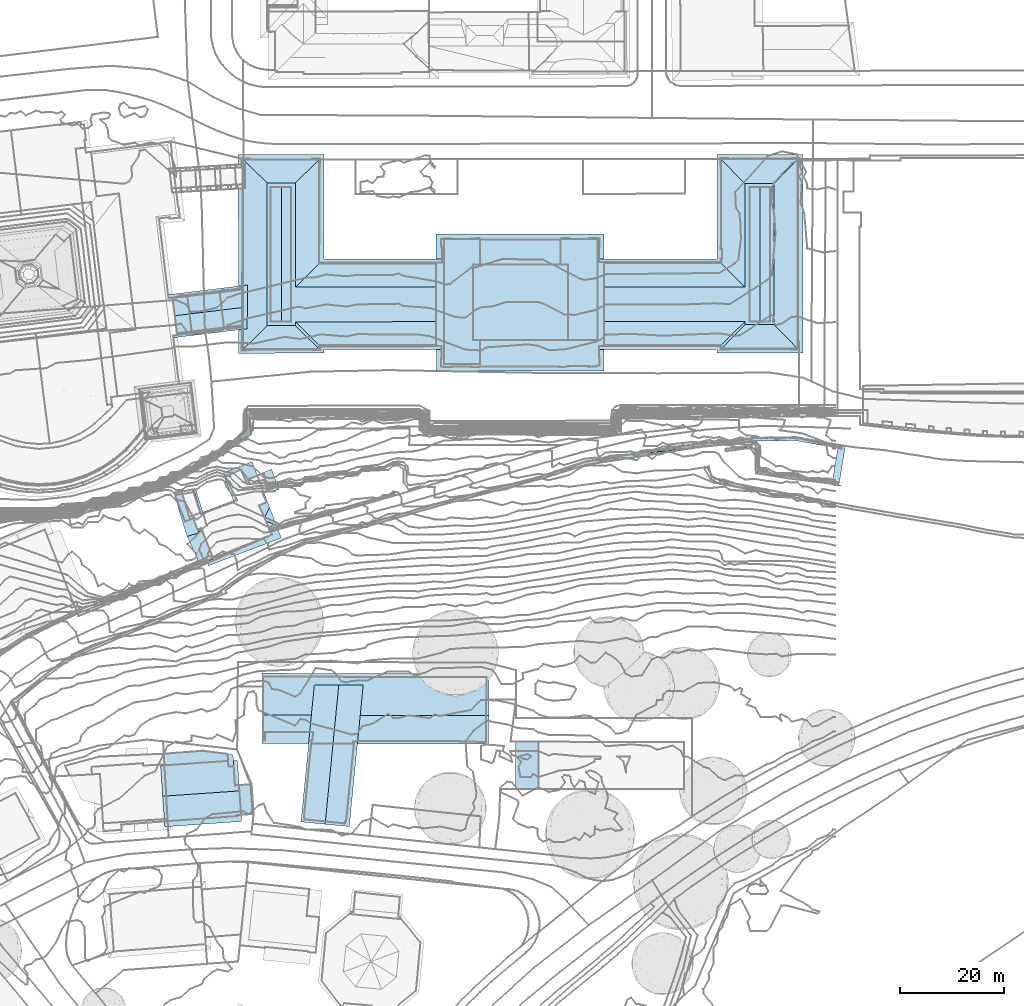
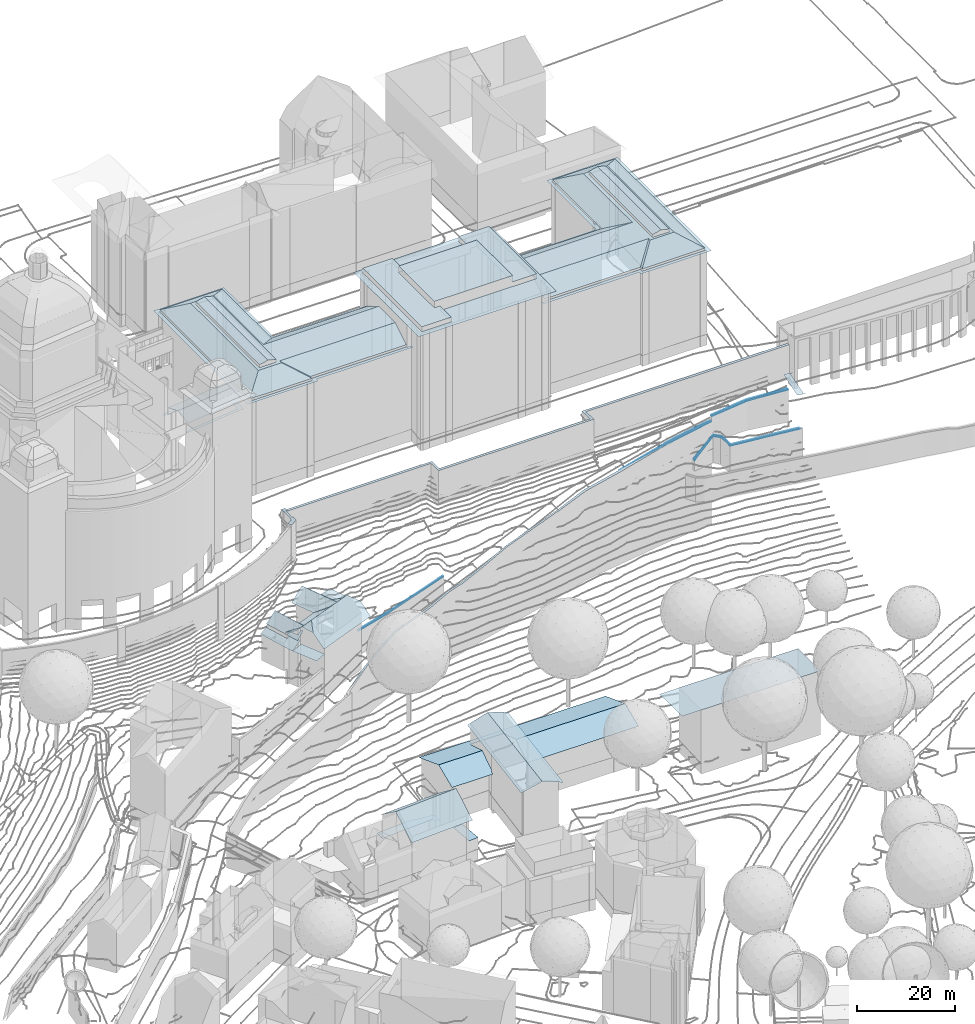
# Not in any storey, part 79 of 494: 28 roofs.
"""IFC2X3 model written with IfcOpenShell, lengths in metres."""

from ifc_helpers import new_model, si_unit, frame, origin_with_axes, place, context, subcontext, project, faceted_brep, element, save


model = new_model("IFC2X3")

# Units and contexts
model_context = context("Model", 3, precision=1e-05, world=origin_with_axes())
body_context = subcontext(model_context, "Body", "Model", "MODEL_VIEW")
ifc_project = project(units=[si_unit("AREAUNIT", "SQUARE_METRE"), si_unit("LENGTHUNIT", "METRE")], contexts=[model_context])

# Roofs
roof_1_placement = place(None, frame((211.8297320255, 101.9383160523, 526.7541), z_axis=(0.0, 0.0, 1.0), x_axis=(1.0, 0.0, 0.0)))
element("IfcRoof", 1, at=roof_1_placement, Name="Roof 1", ShapeType="NOTDEFINED", context=body_context, shape_type="Brep", body=[
    faceted_brep([(458.5340000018, 259.1182000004, 13.2578), (458.5340000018, 258.5155999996, 13.2578), (481.6610000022, 258.5654000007, 13.2577), (481.6600000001, 259.1680000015, 13.2578), (363.3159999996, 258.4228000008, 13.3187), (373.694000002, 258.4043000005, 13.3187), (373.694000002, 259.0078000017, 13.3187), (363.3269999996, 259.0254000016, 13.3187), (397.2360000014, 258.4268000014, 13.3188), (397.8360000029, 259.0302999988, 13.3188), (397.2530000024, 255.4492000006, 13.3188), (397.8530000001, 256.0516999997, 13.3188), (433.2310000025, 256.0078000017, 13.3188), (433.8430000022, 255.4032999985, 13.3188), (433.7950000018, 258.5439000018, 13.3188), (433.1830000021, 259.1475000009, 13.3188)], [[[0, 1, 2]], [[2, 3, 0]], [[4, 5, 6]], [[4, 6, 7]], [[6, 5, 8]], [[6, 8, 9]], [[8, 10, 11]], [[10, 12, 11]], [[12, 10, 13]], [[12, 13, 14]], [[14, 15, 12]], [[11, 9, 8]], [[15, 14, 0]], [[1, 0, 14]]]),
])
roof_2_placement = place(None, frame((211.8297320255, 101.9383160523, 526.7541), z_axis=(0.0, 0.0, 1.0), x_axis=(1.0, 0.0, 0.0)))
element("IfcRoof", 2, at=roof_2_placement, Name="Roof 2", ShapeType="NOTDEFINED", context=body_context, shape_type="Brep", body=[
    faceted_brep([(361.5580000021, 253.379900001, 13.5627), (363.2410000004, 254.4589999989, 13.5627), (362.3150000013, 254.9765000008, 13.5627), (363.0109999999, 255.754900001, 13.5627), (363.2630000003, 255.6416000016, 13.5627), (361.0960000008, 254.1953000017, 13.5627), (362.5670000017, 255.7236000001, 13.5627), (362.5810000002, 258.2802999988, 13.5627), (363.1009999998, 258.2637000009, 13.5627), (363.313000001, 258.2626999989, 13.5627), (363.3300000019, 259.2012000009, 13.5627), (362.3780000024, 258.3046999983, 13.5627), (362.3949999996, 259.2186999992, 13.5627)], [[[0, 1, 2]], [[3, 2, 4]], [[0, 2, 5]], [[6, 2, 3]], [[6, 3, 7]], [[2, 1, 4]], [[8, 9, 10]], [[8, 7, 3]], [[11, 7, 12]], [[10, 12, 7]], [[7, 8, 10]]]),
])
roof_3_placement = place(None, frame((211.8297320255, 101.9383160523, 526.7541), z_axis=(0.0, 0.0, 1.0), x_axis=(1.0, 0.0, 0.0)))
element("IfcRoof", 3, at=roof_3_placement, Name="Roof 50", ShapeType="NOTDEFINED", context=body_context, shape_type="Brep", body=[
    faceted_brep([(457.7770000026, 253.4296999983, 4.8446), (457.8430000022, 252.7675999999, 4.8446), (460.1730000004, 253.6680000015, 4.9256), (460.2239999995, 253.1543000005, 4.9256), (449.7650000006, 252.6308000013, 4.0297), (436.7320000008, 250.5683000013, 2.4808), (449.8500000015, 251.9706999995, 4.0297)], [[[0, 1, 2]], [[3, 2, 1]], [[4, 5, 6]], [[1, 0, 6]], [[4, 6, 0]]]),
])
roof_4_placement = place(None, frame((211.8297320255, 101.9383160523, 526.7541), z_axis=(0.0, 0.0, 1.0), x_axis=(1.0, 0.0, 0.0)))
element("IfcRoof", 4, at=roof_4_placement, Name="Roof 51", ShapeType="NOTDEFINED", context=body_context, shape_type="Brep", body=[
    faceted_brep([(477.4140000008, 251.6435000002, 7.7063), (477.5230000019, 252.2578000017, 7.7073), (468.6530000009, 253.8467000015, 7.0034), (468.6080000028, 253.2734000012, 7.0034), (460.2239999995, 253.1543000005, 6.2074), (460.1730000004, 253.6708999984, 6.2034)], [[[0, 1, 2]], [[2, 3, 0]], [[3, 2, 4]], [[5, 4, 2]]]),
])
roof_5_placement = place(None, frame((211.8297320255, 101.9383160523, 526.7541), z_axis=(0.0, 0.0, 1.0), x_axis=(1.0, 0.0, 0.0)))
element("IfcRoof", 5, at=roof_5_placement, Name="Roof 52", ShapeType="NOTDEFINED", context=body_context, shape_type="Brep", body=[
    faceted_brep([(475.8460000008, 245.3339999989, 2.5538), (475.7760000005, 244.870099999, 2.5538), (476.2829999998, 245.2578000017, 2.5478), (476.2010000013, 244.7958999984, 2.5478), (467.7980000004, 246.3330000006, 2.5538), (467.7340000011, 245.8691000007, 2.5538), (460.9220000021, 246.9032999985, 2.3698), (461.3780000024, 247.308600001, 2.3698), (461.2690000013, 250.6649999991, 2.3698), (460.8049999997, 250.5009999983, 2.3698), (460.0170000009, 252.3104999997, 2.1868), (459.8090000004, 251.8104999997, 2.1868), (455.0830000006, 251.1865000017, -1.6508), (455.0830000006, 251.1865000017, -1.8508), (455.1900000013, 251.2001999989, -1.7688), (459.9189999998, 252.2978000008, 1.9069), (460.0170000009, 252.3104999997, 1.9868), (455.0210000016, 251.6513999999, -1.6508)], [[[0, 1, 2]], [[3, 2, 1]], [[1, 0, 4]], [[4, 5, 1]], [[4, 6, 5]], [[6, 4, 7]], [[8, 9, 7]], [[6, 7, 9]], [[9, 10, 11]], [[8, 10, 9]], [[10, 12, 11]], [[13, 14, 15]], [[16, 15, 14]], [[12, 10, 17]]]),
])
roof_6_placement = place(None, frame((211.8297320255, 101.9383160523, 526.7541), z_axis=(0.0, 0.0, 1.0), x_axis=(1.0, 0.0, 0.0)))
element("IfcRoof", 6, at=roof_6_placement, Name="Roof 75", ShapeType="NOTDEFINED", context=body_context, shape_type="Brep", body=[
    faceted_brep([(391.2110000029, 242.7285000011, -3.1507), (391.1020000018, 243.1074000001, -3.1507), (376.1530000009, 238.4004000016, -4.0406), (367.1540000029, 235.7831999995, -4.0406), (376.0439999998, 238.7793000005, -4.0406), (366.9900000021, 236.1473999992, -4.0406)], [[[0, 1, 2]], [[3, 2, 4]], [[3, 4, 5]], [[1, 4, 2]]]),
])
roof_7_placement = place(None, frame((211.8297320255, 101.9383160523, 526.7541), z_axis=(0.0, 0.0, 1.0), x_axis=(1.0, 0.0, 0.0)))
element("IfcRoof", 7, at=roof_7_placement, Name="Roof 84", ShapeType="NOTDEFINED", context=body_context, shape_type="Brep", body=[
    faceted_brep([(419.2030000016, 246.2578000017, 0.96), (419.3350000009, 245.8231999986, 0.96), (420.2829999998, 246.1229999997, 0.96), (420.126000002, 246.566399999, 0.96), (393.450000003, 239.3104999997, -3.2437), (393.5760000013, 238.8729999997, -3.2437), (398.893000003, 240.4354999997, -2.3187), (398.756000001, 240.9004000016, -2.3197), (449.8500000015, 251.9706999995, 4.0297), (436.7320000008, 250.5683000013, 2.4808), (436.8360000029, 249.9111000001, 2.4808), (389.574000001, 238.2430999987, -3.4067), (389.7030000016, 237.7754000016, -3.4067), (383.9270000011, 236.6893999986, -4.6596), (384.068, 236.1963, -4.6586), (374.4420000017, 234.0780999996, -5.7465), (374.5850000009, 233.6180999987, -5.7495), (368.0720000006, 231.1268999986, -7.3483), (368.4070000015, 230.8134999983, -7.3163), (364.1030000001, 228.8671999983, -8.2442), (364.5199999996, 228.5967000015, -8.2052), (357.5240000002, 224.2617000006, -9.1681), (405.6400000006, 242.7030999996, -0.6429), (405.756000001, 242.2626999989, -0.6429), (427.9169999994, 249.1737999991, 1.7199), (428.0439999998, 248.5469000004, 1.7179)], [[[0, 1, 2]], [[2, 3, 0]], [[4, 5, 6]], [[6, 7, 4]], [[8, 9, 10]], [[11, 12, 4]], [[5, 4, 12]], [[12, 11, 13]], [[13, 14, 12]], [[14, 15, 16]], [[15, 14, 13]], [[15, 17, 16]], [[16, 17, 18]], [[19, 18, 17]], [[18, 19, 20]], [[21, 20, 19]], [[22, 23, 0]], [[1, 0, 23]], [[3, 2, 24]], [[25, 24, 2]], [[23, 22, 6]], [[7, 6, 22]], [[10, 9, 24]], [[24, 25, 10]]]),
])
roof_8_placement = place(None, frame((211.8297320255, 101.9383160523, 526.7541), z_axis=(0.0, 0.0, 1.0), x_axis=(1.0, 0.0, 0.0)))
element("IfcRoof", 8, at=roof_8_placement, Name="Roof 87", ShapeType="NOTDEFINED", context=body_context, shape_type="Brep", body=[
    faceted_brep([(476.8360000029, 252.6338, 11.118), (478.1689999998, 252.2050999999, 11.1179), (478.7250000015, 252.2930000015, 11.1179), (475.5580000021, 244.808600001, 11.1179), (478.6970000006, 252.1220999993, 11.1179), (476.938000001, 244.6649999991, 11.1179), (477.4470000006, 244.4657999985, 11.1179), (477.2010000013, 244.621100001, 11.1179), (477.4640000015, 244.5722000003, 11.1179)], [[[0, 1, 2]], [[1, 0, 3]], [[4, 2, 1]], [[5, 3, 6]], [[3, 5, 1]], [[7, 6, 8]], [[6, 7, 5]]]),
])
roof_9_placement = place(None, frame((577.4937320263, 297.2000160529, 499.3887), z_axis=(0.0, 0.0, 1.0), x_axis=(1.0, 0.0, 0.0)))
element("IfcRoof", 9, at=roof_9_placement, Name="Roof 0", ShapeType="NOTDEFINED", context=body_context, shape_type="Brep", body=[
    faceted_brep([(-0.2179999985, 4.996100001, 12.1268), (-0.2349999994, -0.509800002, 9.822), (9.4110000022, 0.1532999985, 10.112), (10.0470000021, 4.9638999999, 12.1268), (9.5709999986, 0.1376999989, 10.106), (9.3420000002, -0.5390999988, 9.822), (10.626000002, 10.8213, 9.9), (-0.193, 13.0830000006, 9.0531), (18.4220000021, 10.7685999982, 9.911), (43.1669999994, 4.8612999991, 12.1269), (43.6110000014, 4.8603999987, 12.1269), (43.6359999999, 12.9472999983, 9.0532), (17.9160000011, 4.9395000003, 12.1268), (17.5989999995, -0.5019000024, 9.848), (17.5930000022, -0.5644000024, 9.822), (43.5940000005, -0.6445000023, 9.8221), (17.4450000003, -0.4873000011, 9.854)], [[[0, 1, 2]], [[2, 3, 0]], [[3, 2, 4]], [[5, 2, 1]], [[0, 3, 6]], [[7, 0, 6]], [[7, 6, 8]], [[9, 10, 11]], [[9, 8, 12]], [[8, 9, 11]], [[8, 11, 7]], [[13, 14, 15]], [[16, 13, 15]], [[15, 10, 9]], [[12, 16, 9]], [[9, 16, 15]]]),
])
roof_10_placement = place(None, frame((577.4937320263, 297.2000160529, 499.3887), z_axis=(0.0, 0.0, 1.0), x_axis=(1.0, 0.0, 0.0)))
element("IfcRoof", 10, at=roof_10_placement, Name="Roof 1", ShapeType="NOTDEFINED", context=body_context, shape_type="Brep", body=[
    faceted_brep([(7.319000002, -15.6523000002, 14.9435), (11.9970000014, -16.1094000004, 16.4803), (14.6279999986, 10.7949000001, 16.4804), (9.0139999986, 1.6796999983, 14.9435), (9.9090000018, 10.8271999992, 14.9435), (19.3460000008, 10.7626999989, 14.9435), (18.2879999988, -0.0615000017, 14.9435), (16.6739999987, -16.566399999, 14.9435)], [[[0, 1, 2]], [[0, 2, 3]], [[3, 2, 4]], [[5, 2, 6]], [[2, 1, 7]], [[2, 7, 6]]]),
])
roof_11_placement = place(None, frame((630.7837320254, 287.8680160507, 499.1767), z_axis=(0.0, 0.0, 1.0), x_axis=(1.0, 0.0, 0.0)))
element("IfcRoof", 11, at=roof_11_placement, Name="Roof 0", ShapeType="NOTDEFINED", context=body_context, shape_type="Brep", body=[
    faceted_brep([(0.0, 9.1308000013, 15.9245), (-4.5159999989, 9.1406000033, 15.9245), (-4.4780000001, 0.0058000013, 15.9245), (0.0, 0.0, 15.9245), (28.0600000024, 9.0703000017, 15.9245), (28.0730000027, -0.0409999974, 15.9245)], [[[0, 1, 2]], [[0, 2, 3]], [[3, 4, 0]], [[4, 3, 5]]]),
])
roof_12_placement = place(None, frame((560.434732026, 345.1033160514, 517.399), z_axis=(0.0, 0.0, 1.0), x_axis=(1.0, 0.0, 0.0)))
element("IfcRoof", 12, at=roof_12_placement, Name="Roof 0", ShapeType="NOTDEFINED", context=body_context, shape_type="Brep", body=[
    faceted_brep([(6.7430000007, -10.8007999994, 6.6113), (2.7160000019, -8.3085999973, 6.5544), (4.8540000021, -13.8827999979, 6.5474), (5.125, -7.186499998, 6.6114), (2.7050000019, -8.2694999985, 6.5544), (2.4020000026, -8.4043000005, 6.5484), (7.4589999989, -12.6279000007, 6.6093), (7.5769999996, -12.6649999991, 6.6113), (7.5450000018, -12.5927000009, 6.6113), (2.1079999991, 0.5713, 8.0182), (1.3770000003, 0.2520000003, 7.5223), (2.1620000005, 0.3965000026, 8.0182), (-0.2509999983, 0.1455000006, 6.5294), (4.4550000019, -7.0673999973, 8.0182), (3.5920000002, -4.9266999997, 7.8962), (3.0350000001, -5.1512999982, 7.5223), (2.2320000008, -2.5331999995, 7.5233), (4.6480000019, -7.7168000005, 8.0182), (2.3720000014, -8.4140000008, 6.5294)], [[[0, 1, 2]], [[1, 3, 4]], [[3, 1, 0]], [[1, 5, 2]], [[6, 2, 7]], [[2, 6, 0]], [[7, 8, 6]], [[9, 10, 11]], [[10, 9, 12]], [[13, 14, 15]], [[10, 12, 16]], [[15, 16, 12]], [[15, 12, 5]], [[13, 15, 17]], [[15, 5, 17]], [[5, 12, 18]]]),
])
roof_13_placement = place(None, frame((560.434732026, 345.1033160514, 517.399), z_axis=(0.0, 0.0, 1.0), x_axis=(1.0, 0.0, 0.0)))
element("IfcRoof", 13, at=roof_13_placement, Name="Roof 1", ShapeType="NOTDEFINED", context=body_context, shape_type="Brep", body=[
    faceted_brep([(12.3229999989, 5.0313000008, 11.1699), (12.5839999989, 4.3496000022, 11.1699), (14.9550000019, 6.0401000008, 8.7212), (15.9299999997, 3.4951000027, 8.7212), (16.9849999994, 0.7432000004, 8.7212), (16.2719999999, -2.4794999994, 10.302), (15.618999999, -3.5682999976, 11.1699), (17.9710000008, -1.8290999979, 10.302), (14.2540000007, -3.253899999, 10.302), (11.5520000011, -1.5975999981, 8.8591), (9.2630000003, 3.8594000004, 8.7212), (11.2930000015, -1.4384999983, 8.7212), (3.2430000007, -4.5233999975, 8.7212), (3.8850000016, -7.2274999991, 10.302), (5.5340000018, -6.5956999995, 10.302), (2.8990000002, -4.6552999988, 8.7212), (6.1539999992, -9.2997999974, 13.3487), (4.4340000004, -8.6611000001, 12.0058), (6.2360000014, -9.5097000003, 13.3367), (6.2970000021, -9.3524999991, 13.4607), (5.4970000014, -11.4335999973, 11.8199), (17.6810000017, -5.4452999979, 13.0397), (17.1110000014, -5.2089999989, 13.4607), (6.5140000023, -14.0878999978, 9.0051), (20.6000000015, -8.6884999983, 9.0051), (19.6750000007, -6.2753999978, 11.5649), (18.3370000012, -2.7841999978, 11.4379), (17.3570000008, -4.7225999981, 13.0557), (6.1380000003, -6.0282999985, 10.122), (6.2300000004, -6.3290999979, 10.302), (5.512000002, -3.9882999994, 8.9001), (4.9780000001, -3.8583999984, 8.7212), (5.0749999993, -4.1611000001, 8.9031), (20.2050000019, 0.6689999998, 8.5452), (17.2180000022, 0.1367000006, 8.7212), (17.2880000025, -0.0469000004, 8.7212), (17.1099999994, 0.4169999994, 8.7212), (18.7070000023, 4.5771999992, 8.5452), (1.3229999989, 0.4297000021, 8.3382), (1.3770000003, 0.2520000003, 8.3382), (2.8990000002, -4.6552999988, 8.3542), (3.0560000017, -4.5956999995, 8.5212), (3.0820000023, -5.1327999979, 8.3892), (3.0350000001, -5.1512999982, 8.3382), (3.6090000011, 0.8428000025, 10.642), (3.8920000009, -7.9472000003, 8.3382), (3.4739999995, -4.9745999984, 8.8102), (4.4719999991, -7.1083999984, 9.1381), (5.438000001, -7.4745999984, 9.953), (3.6900000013, -5.1688999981, 8.9591), (5.9420000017, -6.7675999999, 10.642), (5.1830000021, -6.8231999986, 9.9), (4.0089999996, 0.9141000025, 10.322), (5.512000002, -3.9882999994, 10.322), (6.2349999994, -6.3456999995, 10.322), (1.9649999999, -1.6649999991, 8.2882), (1.3229999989, 0.4297000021, 8.1382), (1.3770000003, 0.2520000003, 8.1382), (1.9649999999, -1.6649999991, 8.1882)], [[[0, 1, 2]], [[3, 2, 1]], [[1, 4, 3]], [[5, 4, 1]], [[5, 1, 6]], [[5, 7, 4]], [[8, 1, 9]], [[1, 8, 6]], [[1, 0, 10]], [[11, 9, 10]], [[10, 9, 1]], [[12, 13, 14]], [[13, 12, 15]], [[16, 17, 18]], [[18, 19, 16]], [[20, 18, 17]], [[18, 20, 21]], [[22, 19, 18]], [[21, 20, 23]], [[24, 25, 21]], [[22, 18, 21]], [[21, 23, 24]], [[21, 25, 26]], [[21, 27, 22]], [[27, 21, 26]], [[28, 29, 8]], [[30, 31, 32]], [[28, 9, 30]], [[9, 28, 8]], [[9, 11, 30]], [[30, 11, 31]], [[33, 34, 35]], [[34, 33, 36]], [[33, 4, 36]], [[37, 4, 33]], [[3, 4, 37]], [[12, 38, 39]], [[39, 40, 41]], [[42, 40, 43]], [[39, 43, 40]], [[38, 12, 44]], [[14, 44, 12]], [[39, 41, 12]], [[42, 45, 46]], [[45, 42, 43]], [[45, 47, 46]], [[47, 45, 48]], [[47, 49, 46]], [[44, 14, 50]], [[51, 47, 48]], [[52, 50, 53]], [[50, 52, 44]], [[50, 54, 53]], [[50, 17, 6]], [[17, 16, 27]], [[54, 50, 8]], [[17, 50, 13]], [[14, 13, 50]], [[22, 16, 19]], [[17, 27, 6]], [[6, 8, 50]], [[27, 26, 6]], [[6, 26, 7]], [[29, 54, 8]], [[7, 5, 6]], [[27, 16, 22]], [[39, 38, 55]], [[56, 57, 58]]]),
])
roof_14_placement = place(None, frame((558.3647320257, 294.6795160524, 500.6956), z_axis=(0.0, 0.0, 1.0), x_axis=(1.0, 0.0, 0.0)))
element("IfcRoof", 14, at=roof_14_placement, Name="Roof 0", ShapeType="NOTDEFINED", context=body_context, shape_type="Brep", body=[
    faceted_brep([(-0.6689999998, -2.2949000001, 11.0969), (-0.2630000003, -8.1689999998, 15.3915), (0.1280000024, -2.2402000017, 11.0869), (0.4480000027, -7.8300999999, 15.1715), (12.4620000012, -2.0907999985, 11.4478), (14.1900000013, -1.2655999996, 10.9129), (12.4130000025, -1.3887000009, 10.9349), (0.4640000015, -8.1191000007, 15.3915), (14.5970000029, -7.1405999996, 15.3914), (14.5219999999, -6.0546999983, 14.5635), (14.9180000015, -11.7870999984, 11.8728), (12.2750000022, -12.1807000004, 11.7138), (15.006000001, -13.0546999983, 10.9129), (0.4810000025, -8.4072000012, 15.1735), (0.1469999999, -14.0839999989, 11.0969)], [[[0, 1, 2]], [[2, 1, 3]], [[4, 5, 6]], [[2, 3, 6]], [[6, 3, 4]], [[1, 7, 3]], [[3, 7, 8]], [[9, 4, 3]], [[5, 4, 9]], [[9, 3, 8]], [[10, 8, 11]], [[12, 10, 11]], [[7, 1, 13]], [[11, 8, 13]], [[13, 8, 7]], [[1, 14, 13]], [[11, 13, 14]], [[12, 11, 14]]]),
])
roof_15_placement = place(None, frame((558.3647320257, 294.6795160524, 500.6956), z_axis=(0.0, 0.0, 1.0), x_axis=(1.0, 0.0, 0.0)))
element("IfcRoof", 15, at=roof_15_placement, Name="Roof 1", ShapeType="NOTDEFINED", context=body_context, shape_type="Brep", body=[
    faceted_brep([(14.9180000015, -11.7870999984, 4.9954), (17.1530000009, -11.6328000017, 4.9954), (14.5219999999, -6.0546999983, 4.9954), (16.756000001, -5.8993999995, 4.9954)], [[[0, 1, 2]], [[3, 2, 1]]]),
])
roof_16_placement = place(None, frame((558.3647320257, 294.6795160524, 500.6956), z_axis=(0.0, 0.0, 1.0), x_axis=(1.0, 0.0, 0.0)))
element("IfcRoof", 16, at=roof_16_placement, Name="Roof 2", ShapeType="NOTDEFINED", context=body_context, shape_type="Brep", body=[
    faceted_brep([(12.4890000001, -2.4765999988, 4.9954), (13.4970000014, -2.4072000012, 4.9954), (12.4130000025, -1.3887000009, 4.9954), (0.0, 0.0, 4.9955), (0.1280000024, -2.2402000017, 4.9955), (7.438000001, 0.5722999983, 4.9955), (13.3420000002, -0.1719000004, 4.9954)], [[[0, 1, 2]], [[3, 4, 5]], [[5, 4, 2]], [[2, 6, 5]], [[2, 1, 6]]]),
])
roof_17_placement = place(None, frame((516.5377320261, 359.7107160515, 536.6602), z_axis=(0.0, 0.0, 1.0), x_axis=(1.0, 0.0, 0.0)))
element("IfcRoof", 17, at=roof_17_placement, Name="Roof 14", ShapeType="NOTDEFINED", context=body_context, shape_type="Brep", body=[
    faceted_brep([(57.8960000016, 17.8456999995, 20.867), (57.9140000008, 21.3340000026, 22.0059), (56.9710000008, 17.7344000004, 20.867), (43.9470000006, 19.6387000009, 22.0059), (44.3670000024, 16.2041000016, 20.867), (57.9310000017, 24.7763999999, 20.867), (56.9820000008, 24.6612000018, 20.867), (43.5329999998, 23.0293000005, 20.867)], [[[0, 1, 2]], [[2, 3, 4]], [[3, 2, 1]], [[5, 6, 1]], [[1, 7, 3]], [[7, 1, 6]]]),
])
roof_18_placement = place(None, frame((516.5377320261, 359.7107160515, 536.6602), z_axis=(0.0, 0.0, 1.0), x_axis=(1.0, 0.0, 0.0)))
element("IfcRoof", 18, at=roof_18_placement, Name="Roof 15", ShapeType="NOTDEFINED", context=body_context, shape_type="Brep", body=[
    faceted_brep([(42.7280000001, 23.0206000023, 19.1572), (43.5219999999, 23.1152999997, 19.1572), (42.693, 23.192400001, 19.1572), (42.620000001, 23.7120000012, 19.1572), (42.6409999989, 23.5381000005, 19.1572), (42.6649999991, 23.3652999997, 19.1572), (56.9820000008, 24.6612000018, 19.1572), (43.6620000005, 15.375, 19.1572), (44.4079999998, 15.8731000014, 19.1572), (43.6130000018, 15.7763999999, 19.1572), (44.3670000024, 16.2041000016, 19.1572), (56.9710000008, 17.7344000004, 19.1572), (57.8929999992, 17.1016000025, 19.1572), (56.9739999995, 19.4659000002, 19.1572), (57.9340000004, 25.5703999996, 19.1572), (43.5329999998, 23.0293000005, 19.1572)], [[[0, 1, 2]], [[3, 4, 1]], [[2, 1, 5]], [[4, 5, 1]], [[3, 1, 6]], [[7, 8, 9]], [[10, 8, 11]], [[7, 12, 8]], [[13, 11, 12]], [[6, 13, 12]], [[14, 6, 12]], [[14, 3, 6]], [[15, 6, 1]], [[11, 8, 12]]]),
])
roof_19_placement = place(None, frame((572.3587320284, 408.4910160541, 550.1071), z_axis=(0.0, 0.0, 1.0), x_axis=(1.0, 0.0, 0.0)))
element("IfcRoof", 19, at=roof_19_placement, Name="Roof 0", ShapeType="NOTDEFINED", context=body_context, shape_type="Brep", body=[
    faceted_brep([(5.9449999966, -31.0781000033, 13.5455), (10.6089999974, -30.3193000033, 13.5455), (6.6459999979, -30.3203000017, 13.5455), (11.3729999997, -31.0752000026, 13.5455), (6.6349999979, -4.3623000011, 13.5457), (5.9339999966, -3.4980000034, 13.5457), (10.5989999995, -4.3613000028, 13.5457), (11.362999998, -3.496100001, 13.5457), (11.3699999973, -23.6347000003, 13.5455), (11.3729999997, -30.3183000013, 13.5455), (38.5969999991, -30.3076000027, 13.5456), (38.5949999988, -23.6240000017, 13.5456), (16.0109999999, -19.0781000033, 10.7918), (38.5929999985, -19.0693000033, 10.7919), (16.0179999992, -34.871100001, 10.7917), (38.5989999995, -34.8623000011, 10.7919), (16.0179999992, -35.5986000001, 10.7917), (16.0029999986, 1.0302999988, 10.792), (1.2899999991, 1.0243999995, 10.792), (2.5319999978, 1.0243999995, 10.792), (14.682, 1.0292999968, 10.792), (1.3039999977, -35.6045000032, 10.7918)], [[[0, 1, 2]], [[1, 0, 3]], [[0, 2, 4]], [[5, 4, 6]], [[4, 5, 0]], [[5, 6, 7]], [[1, 8, 6]], [[9, 10, 8]], [[9, 8, 1]], [[8, 7, 6]], [[11, 8, 10]], [[9, 1, 3]], [[12, 8, 11]], [[11, 13, 12]], [[9, 14, 10]], [[15, 10, 14]], [[9, 3, 14]], [[16, 14, 3]], [[7, 8, 12]], [[12, 17, 7]], [[18, 5, 19]], [[19, 5, 20]], [[7, 17, 20]], [[7, 20, 5]], [[18, 21, 5]], [[0, 5, 21]], [[0, 21, 16]], [[16, 3, 0]]]),
])
roof_20_placement = place(None, frame((572.3587320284, 408.4910160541, 550.1071), z_axis=(0.0, 0.0, 1.0), x_axis=(1.0, 0.0, 0.0)))
element("IfcRoof", 20, at=roof_20_placement, Name="Roof 1", ShapeType="NOTDEFINED", context=body_context, shape_type="Brep", body=[
    faceted_brep([(1.2899999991, 1.0243999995, 10.288), (0.3549999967, -36.3994000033, 10.2878), (1.3039999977, -35.6045000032, 10.2878), (16.0179999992, -35.5986000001, 10.2878), (16.9409999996, -36.3935000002, 10.2878), (16.0179999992, -34.871100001, 10.2878), (16.9409999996, -35.7031000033, 10.2878), (16.9339999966, -18.1728000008, 10.2878), (16.0029999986, 1.0302999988, 10.288), (16.0109999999, -19.0781000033, 10.2878), (0.3399999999, 1.9648999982, 10.288), (2.5319999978, 1.0243999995, 10.288), (14.682, 1.0292999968, 10.288), (16.925999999, 1.9716999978, 10.288), (2.5319999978, 1.003899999, 10.288), (14.682, 1.0068999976, 10.288), (38.5989999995, -34.8623000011, 10.2879), (38.5989999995, -35.0869000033, 10.2879), (39.6429999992, -35.6943000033, 10.2879), (39.6439999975, -35.0849000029, 10.2879), (38.5929999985, -18.8818000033, 10.2879), (39.7229999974, -18.1640000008, 10.2879), (38.5929999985, -19.0693000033, 10.2879), (39.7239999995, -18.8838, 10.2879)], [[[0, 1, 2]], [[3, 2, 4]], [[5, 3, 6]], [[7, 8, 9]], [[2, 1, 4]], [[10, 0, 11]], [[0, 10, 1]], [[10, 11, 12]], [[10, 12, 13]], [[12, 11, 14]], [[15, 12, 14]], [[13, 12, 8]], [[5, 6, 16]], [[6, 17, 16]], [[17, 18, 19]], [[17, 6, 18]], [[7, 20, 21]], [[13, 8, 7]], [[20, 7, 22]], [[23, 21, 20]], [[9, 22, 7]], [[3, 4, 6]]]),
])
roof_21_placement = place(None, frame((572.3587320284, 408.4910160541, 550.1071), z_axis=(0.0, 0.0, 1.0), x_axis=(1.0, 0.0, 0.0)))
element("IfcRoof", 21, at=roof_21_placement, Name="Roof 4", ShapeType="NOTDEFINED", context=body_context, shape_type="Brep", body=[
    faceted_brep([(8.674999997, -4.3613000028, 14.6796), (8.6849999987, -30.3193000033, 14.6794), (10.5989999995, -4.3613000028, 14.2046), (10.6089999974, -30.3193000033, 14.2044), (6.6349999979, -4.3623000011, 14.2046), (6.6459999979, -30.3203000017, 14.2044)], [[[0, 1, 2]], [[3, 2, 1]], [[4, 5, 0]], [[1, 0, 5]]]),
])
roof_22_placement = place(None, frame((572.3587320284, 408.4910160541, 550.1071), z_axis=(0.0, 0.0, 1.0), x_axis=(1.0, 0.0, 0.0)))
element("IfcRoof", 22, at=roof_22_placement, Name="Roof 5", ShapeType="NOTDEFINED", context=body_context, shape_type="Brep", body=[
    faceted_brep([(45.7049999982, -19.3359000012, 18.4771), (45.7109999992, -33.9121000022, 18.4771), (64.1459999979, -33.9043000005, 18.4771), (64.1399999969, -19.3291000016, 18.4771)], [[[0, 1, 2]], [[2, 3, 0]]]),
])
roof_23_placement = place(None, frame((572.3587320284, 408.4910160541, 550.1071), z_axis=(0.0, 0.0, 1.0), x_axis=(1.0, 0.0, 0.0)))
element("IfcRoof", 23, at=roof_23_placement, Name="Roof 6", ShapeType="NOTDEFINED", context=body_context, shape_type="Brep", body=[
    faceted_brep([(41.5719999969, -14.3994000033, 16.9105), (40.123999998, -38.5342000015, 16.9103), (45.7109999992, -33.9121000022, 16.9103), (47.1019999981, -38.5312000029, 16.9103), (45.7049999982, -19.3359000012, 16.9103), (40.1149999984, -14.4062000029, 16.9105), (45.4669999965, -14.3994000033, 16.9105), (47.0919999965, -14.4043000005, 16.9105), (47.0939999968, -19.3349000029, 16.9103), (47.0999999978, -33.9121000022, 16.9103)], [[[0, 1, 2]], [[2, 1, 3]], [[0, 2, 4]], [[1, 0, 5]], [[0, 4, 6]], [[4, 7, 6]], [[8, 7, 4]], [[9, 2, 3]]]),
])
roof_24_placement = place(None, frame((572.3587320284, 408.4910160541, 550.1071), z_axis=(0.0, 0.0, 1.0), x_axis=(1.0, 0.0, 0.0)))
element("IfcRoof", 24, at=roof_24_placement, Name="Roof 7", ShapeType="NOTDEFINED", context=body_context, shape_type="Brep", body=[
    faceted_brep([(40.123999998, -38.5342000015, 15.7714), (38.6009999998, -39.8340000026, 15.7714), (47.1019999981, -38.5312000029, 15.7714), (38.5909999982, -13.3867000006, 15.7716), (40.1149999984, -14.4062000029, 15.7716), (41.5719999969, -14.3965000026, 15.7716), (46.9689999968, -14.4043000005, 15.7716), (46.9689999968, -14.438500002, 15.7716), (47.0919999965, -14.438500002, 15.7716), (62.7609999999, -14.3984000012, 15.7716), (71.0319999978, -13.3730000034, 15.7716), (47.0939999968, -19.3349000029, 15.7714), (62.6499999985, -19.3300999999, 15.7714), (69.8039999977, -33.9023000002, 15.7713), (47.0999999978, -33.9111000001, 15.7714), (62.6479999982, -14.433600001, 15.7716), (71.0419999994, -39.8213, 15.7713), (69.7969999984, -14.3955000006, 15.7716), (62.7599999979, -14.433600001, 15.7716)], [[[0, 1, 2]], [[3, 4, 5]], [[4, 3, 1]], [[1, 0, 4]], [[3, 5, 6]], [[6, 7, 8]], [[6, 8, 9]], [[3, 6, 10]], [[11, 12, 8]], [[13, 14, 2]], [[12, 15, 8]], [[16, 13, 2]], [[13, 10, 17]], [[2, 1, 16]], [[10, 13, 16]], [[15, 18, 9]], [[15, 9, 8]], [[17, 10, 9]], [[9, 10, 6]]]),
])
roof_25_placement = place(None, frame((572.3587320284, 408.4910160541, 550.1071), z_axis=(0.0, 0.0, 1.0), x_axis=(1.0, 0.0, 0.0)))
element("IfcRoof", 25, at=roof_25_placement, Name="Roof 8", ShapeType="NOTDEFINED", context=body_context, shape_type="Brep", body=[
    faceted_brep([(62.6499999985, -19.3300999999, 16.9103), (64.1399999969, -19.3291000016, 16.9103), (62.6479999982, -14.3984000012, 16.9105), (64.1459999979, -33.9043000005, 16.9102), (69.8039999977, -33.9023000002, 16.9102), (69.7969999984, -14.3955000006, 16.9105)], [[[0, 1, 2]], [[3, 4, 1]], [[1, 5, 2]], [[5, 1, 4]]]),
])
roof_26_placement = place(None, frame((572.3587320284, 408.4910160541, 550.1071), z_axis=(0.0, 0.0, 1.0), x_axis=(1.0, 0.0, 0.0)))
element("IfcRoof", 26, at=roof_26_placement, Name="Roof 9", ShapeType="NOTDEFINED", context=body_context, shape_type="Brep", body=[
    faceted_brep([(70.1140000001, -35.0410000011, 10.2879), (70.1159999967, -35.6826000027, 10.2879), (71.0399999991, -35.0322000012, 10.2879), (92.8789999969, -35.6728000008, 10.2878), (71.0399999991, -34.8506000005, 10.2879), (93.6469999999, -34.8418000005, 10.2878), (71.0339999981, -18.8506000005, 10.2879), (92.8719999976, -18.1435000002, 10.2879), (70.0659999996, -18.1523000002, 10.2879), (70.0659999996, -18.8574000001, 10.2879), (92.8640000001, 2.0019999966, 10.2881), (93.6389999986, -15.8144000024, 10.2881), (71.0339999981, -19.0566000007, 10.2879), (93.6329999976, -0.2109000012, 10.2881), (93.6319999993, 1.0605999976, 10.2881), (93.6839999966, -0.2109000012, 10.2881), (93.6389999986, -16.3506000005, 10.2881), (93.6399999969, -18.1279000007, 10.2879), (108.443, 1.066399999, 10.2881), (92.8789999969, -36.3633000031, 10.2878), (93.6469999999, -35.567400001, 10.2878), (93.6399999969, -19.0469000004, 10.2879), (93.6399999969, -18.8642000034, 10.2879), (93.7390000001, -18.6543000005, 10.2879), (93.6399999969, -18.6543000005, 10.2879), (108.4569999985, -35.5625, 10.2878), (109.4659999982, -36.3564000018, 10.2878), (93.7390000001, -18.8642000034, 10.2879), (93.7009999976, -15.8144000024, 10.2881), (93.8829999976, -18.1269000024, 10.2879), (93.868999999, -16.3496000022, 10.2881), (109.4509999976, 2.0077999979, 10.2881)], [[[0, 1, 2]], [[3, 2, 1]], [[4, 2, 3]], [[5, 4, 3]], [[6, 7, 8]], [[6, 8, 9]], [[10, 7, 11]], [[6, 12, 7]], [[10, 11, 13]], [[14, 10, 13]], [[11, 15, 13]], [[11, 7, 16]], [[16, 7, 17]], [[10, 14, 18]], [[3, 19, 20]], [[12, 21, 7]], [[22, 23, 24]], [[24, 7, 22]], [[22, 7, 21]], [[19, 25, 20]], [[25, 19, 26]], [[27, 23, 22]], [[3, 20, 5]], [[18, 25, 26]], [[15, 11, 28]], [[17, 29, 16]], [[30, 16, 29]], [[31, 10, 18]], [[26, 31, 18]], [[24, 17, 7]]]),
])
roof_27_placement = place(None, frame((572.3587320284, 408.4910160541, 550.1071), z_axis=(0.0, 0.0, 1.0), x_axis=(1.0, 0.0, 0.0)))
element("IfcRoof", 27, at=roof_27_placement, Name="Roof 10", ShapeType="NOTDEFINED", context=body_context, shape_type="Brep", body=[
    faceted_brep([(101.1779999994, -4.3252000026, 14.6797), (101.1879999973, -30.2832000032, 14.6794), (103.1019999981, -4.3242000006, 14.2047), (103.1119999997, -30.2822000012, 14.2045), (99.1379999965, -4.326100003, 14.2047), (99.1479999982, -30.2842000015, 14.2045)], [[[0, 1, 2]], [[3, 2, 1]], [[4, 5, 0]], [[1, 0, 5]]]),
])
roof_28_placement = place(None, frame((572.3587320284, 408.4910160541, 550.1071), z_axis=(0.0, 0.0, 1.0), x_axis=(1.0, 0.0, 0.0)))
element("IfcRoof", 28, at=roof_28_placement, Name="Roof 11", ShapeType="NOTDEFINED", context=body_context, shape_type="Brep", body=[
    faceted_brep([(98.2390000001, -30.876000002, 13.5455), (93.6469999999, -35.567400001, 10.7918), (108.4569999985, -35.5625, 10.7918), (103.8619999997, -30.8730000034, 13.5455), (103.8509999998, -3.625, 13.5458), (108.443, 1.066399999, 10.792), (93.6319999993, 1.0605999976, 10.7921), (98.2280000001, -3.6269000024, 13.5458), (93.6469999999, -34.8418000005, 10.7918), (98.2390000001, -30.2842000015, 13.5455), (71.0379999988, -30.2949000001, 13.5456), (71.0399999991, -34.8506000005, 10.7918), (93.6389999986, -15.8144000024, 10.792), (93.6389999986, -16.3506000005, 10.792), (98.2359999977, -23.6016000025, 13.5455), (93.6329999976, -0.2109000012, 10.7921), (93.6399999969, -18.1279000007, 10.7918), (93.6399999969, -19.0469000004, 10.7918), (93.6399999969, -18.8642000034, 10.7918), (93.6399999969, -18.6543000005, 10.7918), (71.0339999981, -19.0566000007, 10.7918), (71.0359999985, -23.6123000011, 13.5456), (99.1479999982, -30.2842000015, 13.5455), (99.1379999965, -4.3262000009, 13.5458), (103.1119999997, -30.2822000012, 13.5455), (103.1019999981, -4.3242000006, 13.5458)], [[[0, 1, 2]], [[2, 3, 0]], [[4, 3, 5]], [[2, 5, 3]], [[6, 7, 4]], [[4, 5, 6]], [[8, 1, 0]], [[0, 9, 8]], [[10, 11, 8]], [[8, 9, 10]], [[12, 13, 14]], [[7, 15, 12]], [[6, 15, 7]], [[14, 13, 16]], [[17, 14, 18]], [[18, 14, 19]], [[14, 7, 12]], [[14, 16, 19]], [[20, 21, 17]], [[14, 17, 21]], [[9, 0, 22]], [[10, 9, 21]], [[14, 21, 9]], [[23, 7, 14]], [[14, 9, 22]], [[22, 3, 24]], [[3, 22, 0]], [[3, 25, 24]], [[23, 14, 22]], [[25, 4, 23]], [[3, 4, 25]], [[23, 4, 7]]]),
])

save(model, "model.ifc")
